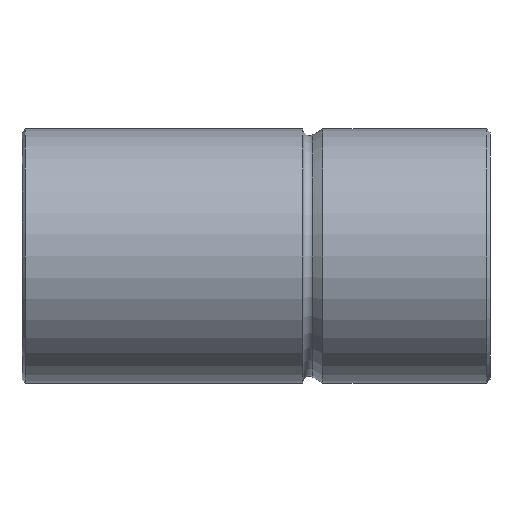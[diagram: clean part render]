
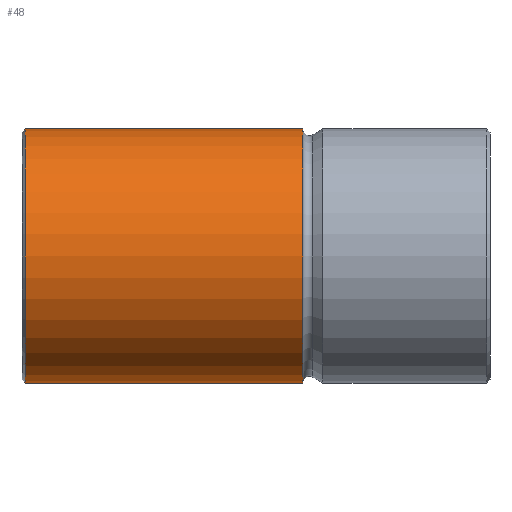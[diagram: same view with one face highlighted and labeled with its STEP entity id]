
A CAD part, front view. The second image highlights one B-rep face of the part: STEP entity #48.
In plain terms, the highlighted cylindrical face has radius 19.02 mm (diameter 38.04 mm), a full revolution.
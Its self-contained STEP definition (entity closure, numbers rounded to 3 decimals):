
#48 = ADVANCED_FACE( '', ( #105, #106, #107 ), #108, .T. );
#105 = FACE_OUTER_BOUND( '', #178, .T. );
#106 = FACE_BOUND( '', #179, .T. );
#107 = FACE_OUTER_BOUND( '', #180, .T. );
#108 = CYLINDRICAL_SURFACE( '', #181, 19.02 );
#178 = EDGE_LOOP( '', ( #253 ) );
#179 = EDGE_LOOP( '', ( #254 ) );
#180 = EDGE_LOOP( '', ( #255 ) );
#181 = AXIS2_PLACEMENT_3D( '', #256, #257, #258 );
#253 = ORIENTED_EDGE( '', *, *, #336, .T. );
#254 = ORIENTED_EDGE( '', *, *, #338, .T. );
#255 = ORIENTED_EDGE( '', *, *, #339, .F. );
#256 = CARTESIAN_POINT( '', ( 0., 0., 0. ) );
#257 = DIRECTION( '', ( -1., 0., 0. ) );
#258 = DIRECTION( '', ( 0., 0., -1. ) );
#336 = EDGE_CURVE( '', #375, #375, #376, .T. );
#338 = EDGE_CURVE( '', #378, #378, #379, .T. );
#339 = EDGE_CURVE( '', #380, #380, #381, .T. );
#375 = VERTEX_POINT( '', #425 );
#376 = CIRCLE( '', #426, 19.02 );
#378 = VERTEX_POINT( '', #428 );
#379 = B_SPLINE_CURVE_WITH_KNOTS( '', 3, ( #429, #430, #431, #432, #433, #434, #435, #436, #437, #438, #439, #440, #441, #442, #443, #444, #445, #446, #447, #448, #449, #450, #451, #452, #453, #454, #455, #456, #457, #458, #459, #460, #461, #462, #463, #464, #465, #466, #467, #468, #469, #470, #471, #472, #473, #474, #475, #476, #477, #478, #479, #480, #481, #482, #483, #484, #485, #486, #487, #488, #489, #490 ), .UNSPECIFIED., .T., .F., ( 2, 2, 2, 2, 2, 2, 2, 2, 2, 2, 2, 2, 2, 2, 2, 2, 2, 2, 2, 2, 2, 2, 2, 2, 2, 2, 2, 2, 2, 2, 2, 2, 2 ), ( -0.001, 0., 0., 0.001, 0.001, 0.002, 0.002, 0.003, 0.003, 0.004, 0.004, 0.005, 0.005, 0.006, 0.006, 0.007, 0.007, 0.008, 0.008, 0.009, 0.009, 0.01, 0.01, 0.011, 0.011, 0.012, 0.012, 0.013, 0.013, 0.014, 0.015, 0.016, 0.016 ), .UNSPECIFIED. );
#380 = VERTEX_POINT( '', #491 );
#381 = CIRCLE( '', #492, 19.02 );
#425 = CARTESIAN_POINT( '', ( -69.5, 0., -19.02 ) );
#426 = AXIS2_PLACEMENT_3D( '', #591, #592, #593 );
#428 = CARTESIAN_POINT( '', ( -60., 18.855, -2.5 ) );
#429 = CARTESIAN_POINT( '', ( -60.331, 18.855, -2.5 ) );
#430 = CARTESIAN_POINT( '', ( -59.835, 18.855, -2.5 ) );
#431 = CARTESIAN_POINT( '', ( -59.672, 18.857, -2.484 ) );
#432 = CARTESIAN_POINT( '', ( -59.352, 18.865, -2.42 ) );
#433 = CARTESIAN_POINT( '', ( -59.193, 18.872, -2.372 ) );
#434 = CARTESIAN_POINT( '', ( -58.891, 18.887, -2.246 ) );
#435 = CARTESIAN_POINT( '', ( -58.747, 18.896, -2.17 ) );
#436 = CARTESIAN_POINT( '', ( -58.476, 18.916, -1.988 ) );
#437 = CARTESIAN_POINT( '', ( -58.347, 18.927, -1.883 ) );
#438 = CARTESIAN_POINT( '', ( -58.117, 18.948, -1.652 ) );
#439 = CARTESIAN_POINT( '', ( -58.013, 18.959, -1.527 ) );
#440 = CARTESIAN_POINT( '', ( -57.831, 18.979, -1.253 ) );
#441 = CARTESIAN_POINT( '', ( -57.753, 18.988, -1.108 ) );
#442 = CARTESIAN_POINT( '', ( -57.628, 19.003, -0.807 ) );
#443 = CARTESIAN_POINT( '', ( -57.58, 19.01, -0.65 ) );
#444 = CARTESIAN_POINT( '', ( -57.516, 19.018, -0.327 ) );
#445 = CARTESIAN_POINT( '', ( -57.5, 19.02, -0.165 ) );
#446 = CARTESIAN_POINT( '', ( -57.5, 19.02, 0.162 ) );
#447 = CARTESIAN_POINT( '', ( -57.516, 19.018, 0.328 ) );
#448 = CARTESIAN_POINT( '', ( -57.58, 19.01, 0.648 ) );
#449 = CARTESIAN_POINT( '', ( -57.627, 19.004, 0.804 ) );
#450 = CARTESIAN_POINT( '', ( -57.753, 18.988, 1.107 ) );
#451 = CARTESIAN_POINT( '', ( -57.831, 18.979, 1.253 ) );
#452 = CARTESIAN_POINT( '', ( -58.012, 18.959, 1.524 ) );
#453 = CARTESIAN_POINT( '', ( -58.115, 18.949, 1.65 ) );
#454 = CARTESIAN_POINT( '', ( -58.348, 18.927, 1.884 ) );
#455 = CARTESIAN_POINT( '', ( -58.474, 18.916, 1.987 ) );
#456 = CARTESIAN_POINT( '', ( -58.745, 18.896, 2.168 ) );
#457 = CARTESIAN_POINT( '', ( -58.891, 18.887, 2.247 ) );
#458 = CARTESIAN_POINT( '', ( -59.194, 18.872, 2.372 ) );
#459 = CARTESIAN_POINT( '', ( -59.349, 18.866, 2.419 ) );
#460 = CARTESIAN_POINT( '', ( -59.67, 18.857, 2.484 ) );
#461 = CARTESIAN_POINT( '', ( -59.836, 18.855, 2.5 ) );
#462 = CARTESIAN_POINT( '', ( -60.162, 18.855, 2.5 ) );
#463 = CARTESIAN_POINT( '', ( -60.325, 18.857, 2.484 ) );
#464 = CARTESIAN_POINT( '', ( -60.648, 18.865, 2.42 ) );
#465 = CARTESIAN_POINT( '', ( -60.805, 18.872, 2.372 ) );
#466 = CARTESIAN_POINT( '', ( -61.106, 18.887, 2.248 ) );
#467 = CARTESIAN_POINT( '', ( -61.252, 18.896, 2.17 ) );
#468 = CARTESIAN_POINT( '', ( -61.525, 18.916, 1.988 ) );
#469 = CARTESIAN_POINT( '', ( -61.651, 18.927, 1.885 ) );
#470 = CARTESIAN_POINT( '', ( -61.881, 18.948, 1.654 ) );
#471 = CARTESIAN_POINT( '', ( -61.987, 18.959, 1.526 ) );
#472 = CARTESIAN_POINT( '', ( -62.169, 18.979, 1.255 ) );
#473 = CARTESIAN_POINT( '', ( -62.245, 18.988, 1.111 ) );
#474 = CARTESIAN_POINT( '', ( -62.371, 19.003, 0.809 ) );
#475 = CARTESIAN_POINT( '', ( -62.42, 19.01, 0.65 ) );
#476 = CARTESIAN_POINT( '', ( -62.483, 19.018, 0.33 ) );
#477 = CARTESIAN_POINT( '', ( -62.5, 19.02, 0.168 ) );
#478 = CARTESIAN_POINT( '', ( -62.5, 19.02, -0.163 ) );
#479 = CARTESIAN_POINT( '', ( -62.484, 19.018, -0.326 ) );
#480 = CARTESIAN_POINT( '', ( -62.421, 19.01, -0.645 ) );
#481 = CARTESIAN_POINT( '', ( -62.373, 19.004, -0.804 ) );
#482 = CARTESIAN_POINT( '', ( -62.247, 18.988, -1.107 ) );
#483 = CARTESIAN_POINT( '', ( -62.171, 18.979, -1.251 ) );
#484 = CARTESIAN_POINT( '', ( -61.99, 18.959, -1.523 ) );
#485 = CARTESIAN_POINT( '', ( -61.884, 18.949, -1.651 ) );
#486 = CARTESIAN_POINT( '', ( -61.539, 18.916, -1.997 ) );
#487 = CARTESIAN_POINT( '', ( -61.261, 18.895, -2.183 ) );
#488 = CARTESIAN_POINT( '', ( -60.659, 18.864, -2.433 ) );
#489 = CARTESIAN_POINT( '', ( -60.331, 18.855, -2.5 ) );
#490 = CARTESIAN_POINT( '', ( -59.835, 18.855, -2.5 ) );
#491 = CARTESIAN_POINT( '', ( -28., 0., -19.02 ) );
#492 = AXIS2_PLACEMENT_3D( '', #594, #595, #596 );
#591 = CARTESIAN_POINT( '', ( -69.5, 0., 0. ) );
#592 = DIRECTION( '', ( 1., 0., 0. ) );
#593 = DIRECTION( '', ( 0., 0., -1. ) );
#594 = CARTESIAN_POINT( '', ( -28., 0., 0. ) );
#595 = DIRECTION( '', ( 1., 0., 0. ) );
#596 = DIRECTION( '', ( 0., 0., -1. ) );
